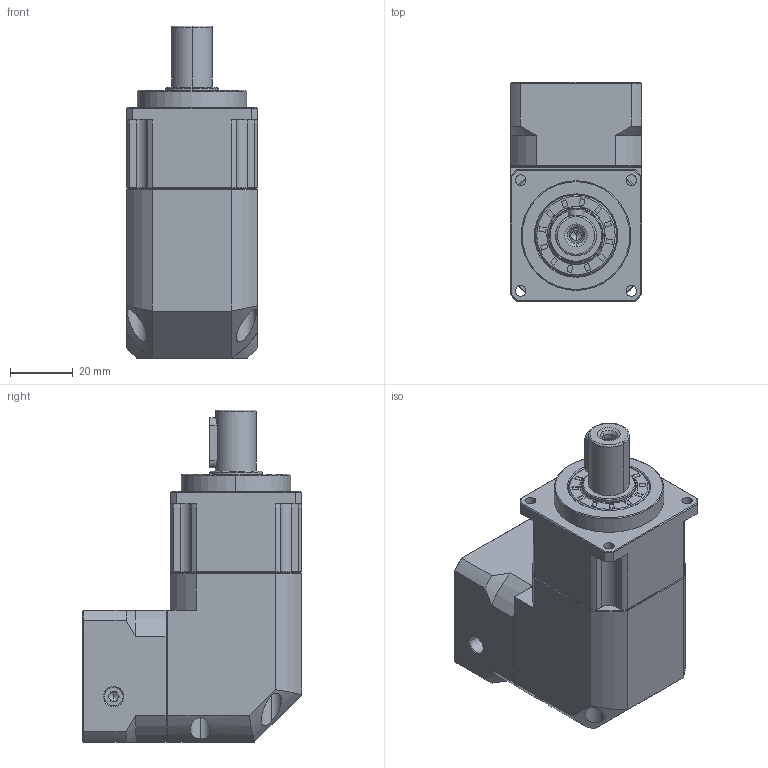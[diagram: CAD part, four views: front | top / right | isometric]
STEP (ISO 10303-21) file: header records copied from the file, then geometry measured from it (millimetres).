
FILE_DESCRIPTION (( 'STEP AP214' ), '1' );
FILE_NAME ('ZPBR042-D13-L1-P1-8-30-45-M3.step', '2024-04-11T05:19:32', ( 'Windows 蚚誧' ), ( 'Organization' ), 'SwSTEP 2.0', 'SolidWorks 2016', '' );
FILE_SCHEMA (( 'AUTOMOTIVE_DESIGN' ));
Length unit declared in the file: millimetre
Products named in the file (1): ZPBR042-D13-L1-P1-8-30-45-M3
Bounding box: 42 x 70 x 106 mm (x, y, z)
Volume: 150803.3 mm3; surface area: 47342.8 mm2
Topology: 8 solids, 8 shells, 1576 faces, 4101 edges, 2623 vertices
Faces by surface type: plane 622, bspline 352, cylinder 350, cone 250, torus 2
Entity records: 88210 total; most frequent: CARTESIAN_POINT 35071, ORIENTED_EDGE 8142, DIRECTION 6198, EDGE_CURVE 4071, VERTEX_POINT 2623, VECTOR 2322, LINE 2322, AXIS2_PLACEMENT_3D 1938
